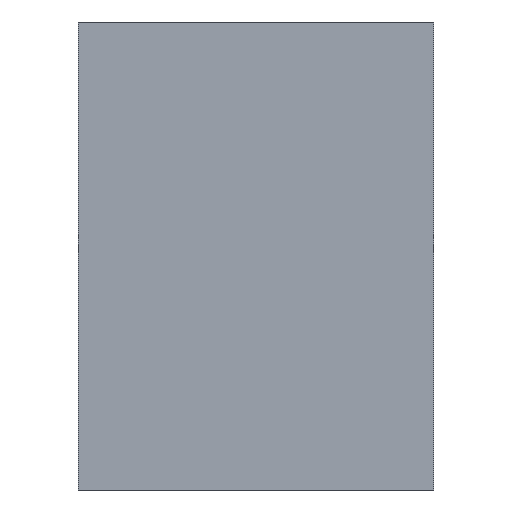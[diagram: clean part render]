
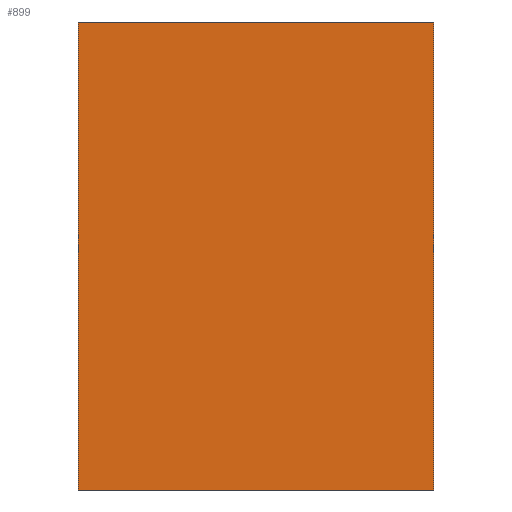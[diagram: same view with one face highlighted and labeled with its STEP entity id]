
A CAD part, front view. The second image highlights one B-rep face of the part: STEP entity #899.
In plain terms, the highlighted planar face has unit normal (0, -1, 0).
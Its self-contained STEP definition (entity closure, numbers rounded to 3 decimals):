
#7 = ORIENTED_EDGE ( 'NONE', *, *, #798, .F. ) ;
#12 = VERTEX_POINT ( 'NONE', #121 ) ;
#29 = EDGE_CURVE ( 'NONE', #12, #251, #225, .T. ) ;
#46 = VERTEX_POINT ( 'NONE', #400 ) ;
#63 = EDGE_CURVE ( 'NONE', #46, #763, #533, .T. ) ;
#92 = CARTESIAN_POINT ( 'NONE',  ( 0., 0., 0. ) ) ;
#121 = CARTESIAN_POINT ( 'NONE',  ( 0., 0., 50. ) ) ;
#225 = LINE ( 'NONE', #226, #227 ) ;
#226 = CARTESIAN_POINT ( 'NONE',  ( 0., 0., 50. ) ) ;
#227 = VECTOR ( 'NONE', #228, 1000. ) ;
#228 = DIRECTION ( 'NONE',  ( 0., 0., -1. ) ) ;
#251 = VERTEX_POINT ( 'NONE', #92 ) ;
#271 = ORIENTED_EDGE ( 'NONE', *, *, #63, .F. ) ;
#342 = CARTESIAN_POINT ( 'NONE',  ( 38., 0., 0. ) ) ;
#400 = CARTESIAN_POINT ( 'NONE',  ( 38., 0., 50. ) ) ;
#411 = FACE_OUTER_BOUND ( 'NONE', #876, .T. ) ;
#412 = PLANE ( 'NONE',  #413 ) ;
#413 = AXIS2_PLACEMENT_3D ( 'NONE', #414, #415, #416 ) ;
#414 = CARTESIAN_POINT ( 'NONE',  ( 38., 0., 50. ) ) ;
#415 = DIRECTION ( 'NONE',  ( 0., 1., 0. ) ) ;
#416 = DIRECTION ( 'NONE',  ( 0., 0., 1. ) ) ;
#462 = LINE ( 'NONE', #463, #464 ) ;
#463 = CARTESIAN_POINT ( 'NONE',  ( 38., 0., 0. ) ) ;
#464 = VECTOR ( 'NONE', #465, 1000. ) ;
#465 = DIRECTION ( 'NONE',  ( 1., 0., 0. ) ) ;
#474 = LINE ( 'NONE', #475, #476 ) ;
#475 = CARTESIAN_POINT ( 'NONE',  ( 38., 0., 50. ) ) ;
#476 = VECTOR ( 'NONE', #477, 1000. ) ;
#477 = DIRECTION ( 'NONE',  ( 1., 0., 0. ) ) ;
#509 = ORIENTED_EDGE ( 'NONE', *, *, #29, .T. ) ;
#533 = LINE ( 'NONE', #534, #535 ) ;
#534 = CARTESIAN_POINT ( 'NONE',  ( 38., 0., 50. ) ) ;
#535 = VECTOR ( 'NONE', #536, 1000. ) ;
#536 = DIRECTION ( 'NONE',  ( 0., 0., -1. ) ) ;
#763 = VERTEX_POINT ( 'NONE', #342 ) ;
#796 = EDGE_CURVE ( 'NONE', #251, #763, #462, .T. ) ;
#798 = EDGE_CURVE ( 'NONE', #12, #46, #474, .T. ) ;
#840 = ORIENTED_EDGE ( 'NONE', *, *, #796, .T. ) ;
#876 = EDGE_LOOP ( 'NONE', ( #840, #271, #7, #509 ) ) ;
#899 = ADVANCED_FACE ( 'NONE', ( #411 ), #412, .F. ) ;
